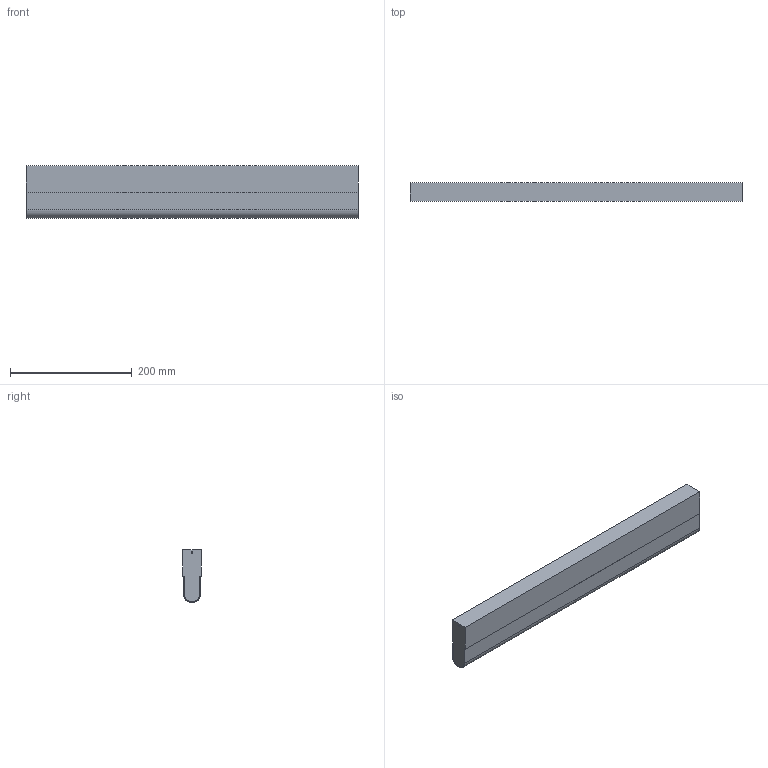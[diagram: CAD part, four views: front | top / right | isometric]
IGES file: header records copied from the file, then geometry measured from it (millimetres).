
Start section: SolidWorks IGES file using analytic representation for surfaces
Global section: file name: C:\Users\danielet\Desktop\3D CARLOS\TESLA-A383420-3D\TESLA-A383420-3D.IGS; native system: SolidWorks 2018; preprocessor: SolidWorks 2018; author: danielet; date: 220126.095540; units: millimetre
Bounding box: 545 x 30 x 87 mm (x, y, z)
Surface area: 236059.2 mm2 (no closed solid volume)
Topology: 0 solids, 0 shells, 26 faces, 362 edges, 362 vertices
Faces by surface type: bspline 19, revolution 7
